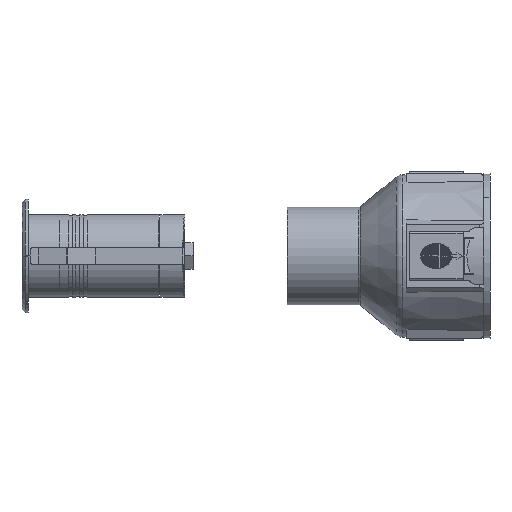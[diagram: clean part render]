
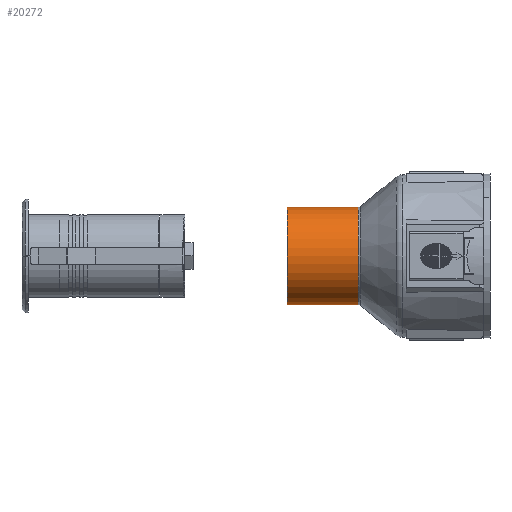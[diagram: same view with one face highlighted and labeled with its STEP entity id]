
A CAD part, left-side view. The second image highlights one B-rep face of the part: STEP entity #20272.
In plain terms, the highlighted cylindrical face has radius 23.5 mm (diameter 47 mm), a partial arc.
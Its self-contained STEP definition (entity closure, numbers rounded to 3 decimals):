
#15315=CARTESIAN_POINT('',(0.,95.,0.));
#15316=DIRECTION('',(0.,-1.,0.));
#15317=DIRECTION('',(0.,0.,1.));
#15318=AXIS2_PLACEMENT_3D('',#15315,#15316,#15317);
#15330=DIRECTION('',(0.,1.,0.));
#15331=VECTOR('',#15330,34.278);
#15332=CARTESIAN_POINT('',(0.,60.722,23.5));
#15333=LINE('',#15332,#15331);
#15359=CARTESIAN_POINT('',(0.,60.722,0.));
#15360=DIRECTION('',(0.,1.,0.));
#15361=DIRECTION('',(0.,0.,-1.));
#15362=AXIS2_PLACEMENT_3D('',#15359,#15360,#15361);
#16730=DIRECTION('',(0.,1.,0.));
#16731=VECTOR('',#16730,34.278);
#16732=CARTESIAN_POINT('',(0.,60.722,-23.5));
#16733=LINE('',#16732,#16731);
#17564=CARTESIAN_POINT('',(0.,95.,-23.5));
#17565=CARTESIAN_POINT('',(0.,95.,23.5));
#17566=VERTEX_POINT('',#17564);
#17567=VERTEX_POINT('',#17565);
#17568=CARTESIAN_POINT('',(0.,60.722,23.5));
#17569=CARTESIAN_POINT('',(0.,60.722,-23.5));
#17570=VERTEX_POINT('',#17568);
#17571=VERTEX_POINT('',#17569);
#20261=CARTESIAN_POINT('',(0.,0.,0.));
#20262=DIRECTION('',(0.,1.,0.));
#20263=DIRECTION('',(0.,0.,1.));
#20264=AXIS2_PLACEMENT_3D('',#20261,#20262,#20263);
#20265=CYLINDRICAL_SURFACE('',#20264,23.5);
#20266=ORIENTED_EDGE('',*,*,#18690,.T.);
#20267=ORIENTED_EDGE('',*,*,#18671,.F.);
#20268=ORIENTED_EDGE('',*,*,#18687,.F.);
#20269=ORIENTED_EDGE('',*,*,#18718,.F.);
#20270=EDGE_LOOP('',(#20266,#20267,#20268,#20269));
#20271=FACE_OUTER_BOUND('',#20270,.F.);
#20272=ADVANCED_FACE('',(#20271),#20265,.T.);
#15319=CIRCLE('',#15318,23.5);
#15363=CIRCLE('',#15362,23.5);
#18671=EDGE_CURVE('',#17567,#17566,#15319,.T.);
#18687=EDGE_CURVE('',#17570,#17567,#15333,.T.);
#18690=EDGE_CURVE('',#17571,#17566,#16733,.T.);
#18718=EDGE_CURVE('',#17571,#17570,#15363,.T.);
